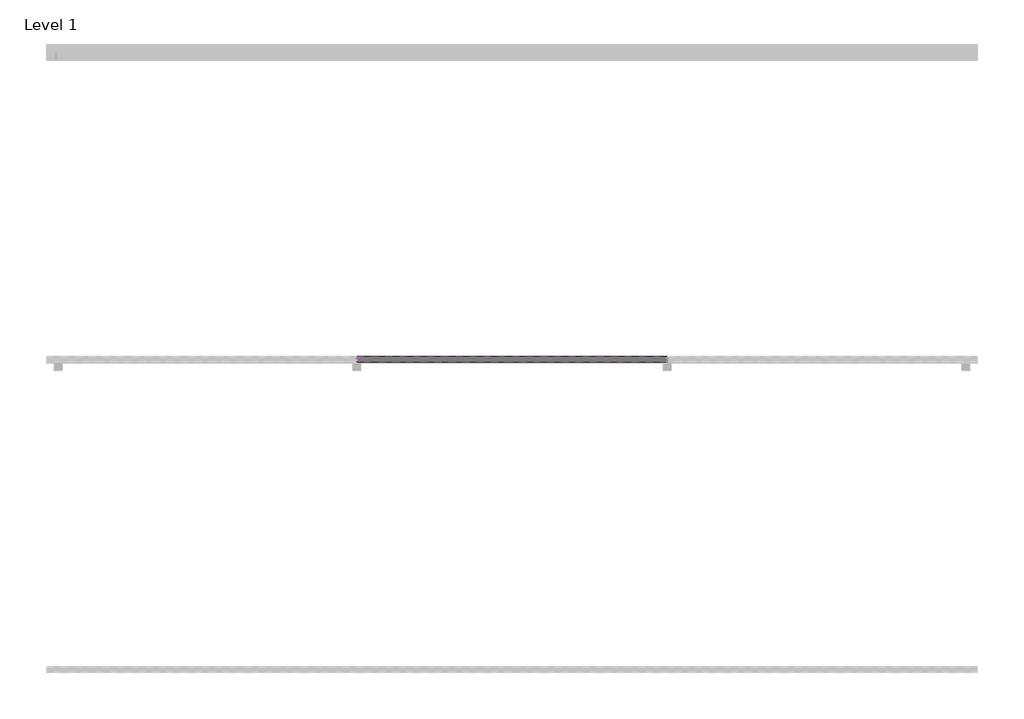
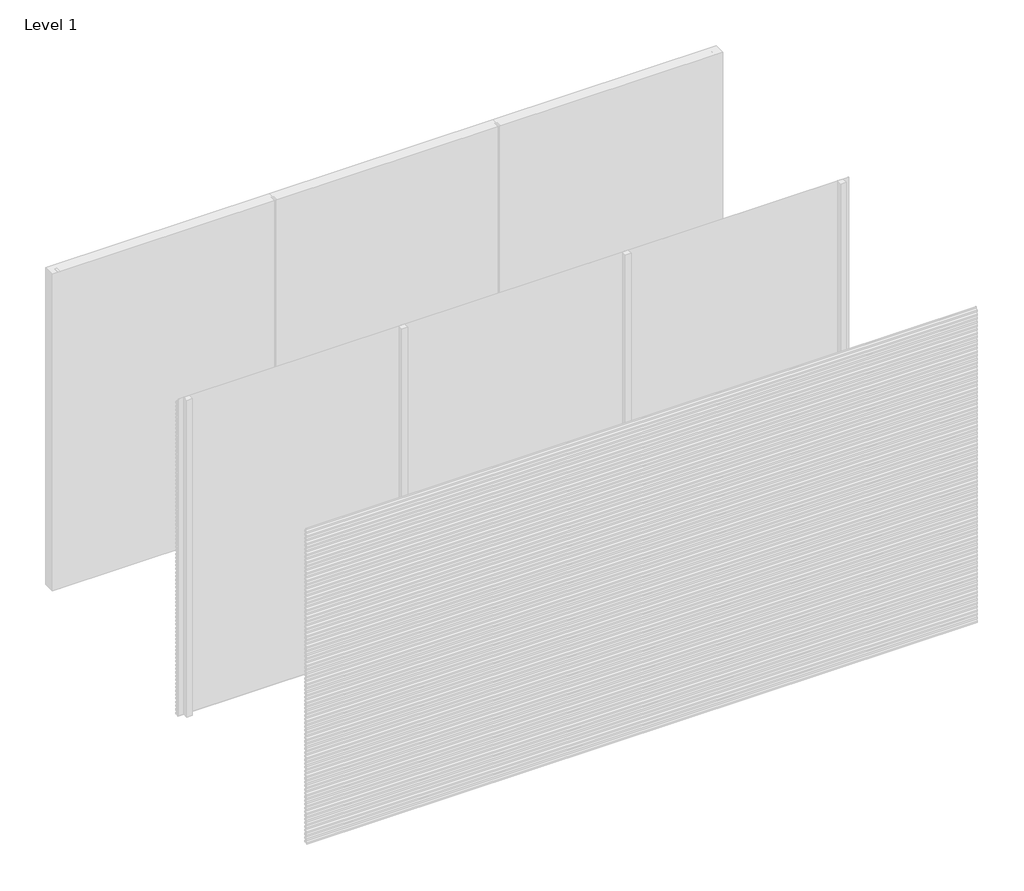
# One storey, part 8 of 17: 81 proxies.
"""IFC4 building model written with IfcOpenShell, lengths in millimetres."""

from ifc_helpers import new_model, si_unit, frame, origin, place, context, project, spatial, polyline, outline, extrude, element, save

model = new_model("IFC4")

# Units and contexts
model_context = context("Model", 3, world=origin())
ifc_project = project(units=[si_unit("LENGTHUNIT", "METRE", prefix="MILLI")], contexts=[model_context])

# Site, building, storey
site = spatial("IfcSite", under=ifc_project)
building = spatial("IfcBuilding", under=site)
storey = spatial("IfcBuildingStorey", under=building, Name="Level 1", Elevation=0.0)

# Proxies
placement = place(None, origin())
element("IfcBuildingElementProxy", 1, Name="Wall Sweeps", at=placement, inside=storey, context=model_context, shape_type="SweptSolid", body=[
    extrude(outline(polyline([(-11961.0, 2286.5), (-11961.0, 2271.5), (-11979.0, 2283.6411533), (-11997.0, 2271.5), (-11997.0, 2286.5), (-11980.0, 2297.9666448), (-11980.0, 2310.0), (-11978.0, 2310.0), (-11978.0, 2297.9666448), (-11961.0, 2286.5)])), frame((2000.0, 0.0, 0.0), z_axis=(1.0, 0.0, 0.0), x_axis=(0.0, 1.0, 0.0)), (0.0, 0.0, 1.0), 2000.0),
])
element("IfcBuildingElementProxy", 2, Name="Wall Sweeps", at=placement, inside=storey, context=model_context, shape_type="SweptSolid", body=[
    extrude(outline(polyline([(-11961.0, 2251.5), (-11961.0, 2236.5), (-11979.0, 2248.6411533), (-11997.0, 2236.5), (-11997.0, 2251.5), (-11980.0, 2262.9666448), (-11980.0, 2275.0), (-11978.0, 2275.0), (-11978.0, 2262.9666448), (-11961.0, 2251.5)])), frame((2000.0, 0.0, 0.0), z_axis=(1.0, 0.0, 0.0), x_axis=(0.0, 1.0, 0.0)), (0.0, 0.0, 1.0), 2000.0),
])
element("IfcBuildingElementProxy", 3, Name="Wall Sweeps", at=placement, inside=storey, context=model_context, shape_type="SweptSolid", body=[
    extrude(outline(polyline([(-11961.0, 2216.5), (-11961.0, 2201.5), (-11979.0, 2213.6411533), (-11997.0, 2201.5), (-11997.0, 2216.5), (-11980.0, 2227.9666448), (-11980.0, 2240.0), (-11978.0, 2240.0), (-11978.0, 2227.9666448), (-11961.0, 2216.5)])), frame((2000.0, 0.0, 0.0), z_axis=(1.0, 0.0, 0.0), x_axis=(0.0, 1.0, 0.0)), (0.0, 0.0, 1.0), 2000.0),
])
element("IfcBuildingElementProxy", 4, Name="Wall Sweeps", at=placement, inside=storey, context=model_context, shape_type="SweptSolid", body=[
    extrude(outline(polyline([(-11961.0, 2181.5), (-11961.0, 2166.5), (-11979.0, 2178.6411533), (-11997.0, 2166.5), (-11997.0, 2181.5), (-11980.0, 2192.9666448), (-11980.0, 2205.0), (-11978.0, 2205.0), (-11978.0, 2192.9666448), (-11961.0, 2181.5)])), frame((2000.0, 0.0, 0.0), z_axis=(1.0, 0.0, 0.0), x_axis=(0.0, 1.0, 0.0)), (0.0, 0.0, 1.0), 2000.0),
])
element("IfcBuildingElementProxy", 5, Name="Wall Sweeps", at=placement, inside=storey, context=model_context, shape_type="SweptSolid", body=[
    extrude(outline(polyline([(-11961.0, 2146.5), (-11961.0, 2131.5), (-11979.0, 2143.6411533), (-11997.0, 2131.5), (-11997.0, 2146.5), (-11980.0, 2157.9666448), (-11980.0, 2170.0), (-11978.0, 2170.0), (-11978.0, 2157.9666448), (-11961.0, 2146.5)])), frame((2000.0, 0.0, 0.0), z_axis=(1.0, 0.0, 0.0), x_axis=(0.0, 1.0, 0.0)), (0.0, 0.0, 1.0), 2000.0),
])
element("IfcBuildingElementProxy", 6, Name="Wall Sweeps", at=placement, inside=storey, context=model_context, shape_type="SweptSolid", body=[
    extrude(outline(polyline([(-11961.0, 2111.5), (-11961.0, 2096.5), (-11979.0, 2108.6411533), (-11997.0, 2096.5), (-11997.0, 2111.5), (-11980.0, 2122.9666448), (-11980.0, 2135.0), (-11978.0, 2135.0), (-11978.0, 2122.9666448), (-11961.0, 2111.5)])), frame((2000.0, 0.0, 0.0), z_axis=(1.0, 0.0, 0.0), x_axis=(0.0, 1.0, 0.0)), (0.0, 0.0, 1.0), 2000.0),
])
element("IfcBuildingElementProxy", 7, Name="Wall Sweeps", at=placement, inside=storey, context=model_context, shape_type="SweptSolid", body=[
    extrude(outline(polyline([(-11961.0, 2076.5), (-11961.0, 2061.5), (-11979.0, 2073.6411533), (-11997.0, 2061.5), (-11997.0, 2076.5), (-11980.0, 2087.9666448), (-11980.0, 2100.0), (-11978.0, 2100.0), (-11978.0, 2087.9666448), (-11961.0, 2076.5)])), frame((2000.0, 0.0, 0.0), z_axis=(1.0, 0.0, 0.0), x_axis=(0.0, 1.0, 0.0)), (0.0, 0.0, 1.0), 2000.0),
])
element("IfcBuildingElementProxy", 8, Name="Wall Sweeps", at=placement, inside=storey, context=model_context, shape_type="SweptSolid", body=[
    extrude(outline(polyline([(-11961.0, 2041.5), (-11961.0, 2026.5), (-11979.0, 2038.6411533), (-11997.0, 2026.5), (-11997.0, 2041.5), (-11980.0, 2052.9666448), (-11980.0, 2065.0), (-11978.0, 2065.0), (-11978.0, 2052.9666448), (-11961.0, 2041.5)])), frame((2000.0, 0.0, 0.0), z_axis=(1.0, 0.0, 0.0), x_axis=(0.0, 1.0, 0.0)), (0.0, 0.0, 1.0), 2000.0),
])
element("IfcBuildingElementProxy", 9, Name="Wall Sweeps", at=placement, inside=storey, context=model_context, shape_type="SweptSolid", body=[
    extrude(outline(polyline([(-11961.0, 2006.5), (-11961.0, 1991.5), (-11979.0, 2003.6411533), (-11997.0, 1991.5), (-11997.0, 2006.5), (-11980.0, 2017.9666448), (-11980.0, 2030.0), (-11978.0, 2030.0), (-11978.0, 2017.9666448), (-11961.0, 2006.5)])), frame((2000.0, 0.0, 0.0), z_axis=(1.0, 0.0, 0.0), x_axis=(0.0, 1.0, 0.0)), (0.0, 0.0, 1.0), 2000.0),
])
element("IfcBuildingElementProxy", 10, Name="Wall Sweeps", at=placement, inside=storey, context=model_context, shape_type="SweptSolid", body=[
    extrude(outline(polyline([(-11961.0, 1971.5), (-11961.0, 1956.5), (-11979.0, 1968.6411533), (-11997.0, 1956.5), (-11997.0, 1971.5), (-11980.0, 1982.9666448), (-11980.0, 1995.0), (-11978.0, 1995.0), (-11978.0, 1982.9666448), (-11961.0, 1971.5)])), frame((2000.0, 0.0, 0.0), z_axis=(1.0, 0.0, 0.0), x_axis=(0.0, 1.0, 0.0)), (0.0, 0.0, 1.0), 2000.0),
])
element("IfcBuildingElementProxy", 11, Name="Wall Sweeps", at=placement, inside=storey, context=model_context, shape_type="SweptSolid", body=[
    extrude(outline(polyline([(-11961.0, 1936.5), (-11961.0, 1921.5), (-11979.0, 1933.6411533), (-11997.0, 1921.5), (-11997.0, 1936.5), (-11980.0, 1947.9666448), (-11980.0, 1960.0), (-11978.0, 1960.0), (-11978.0, 1947.9666448), (-11961.0, 1936.5)])), frame((2000.0, 0.0, 0.0), z_axis=(1.0, 0.0, 0.0), x_axis=(0.0, 1.0, 0.0)), (0.0, 0.0, 1.0), 2000.0),
])
element("IfcBuildingElementProxy", 12, Name="Wall Sweeps", at=placement, inside=storey, context=model_context, shape_type="SweptSolid", body=[
    extrude(outline(polyline([(-11961.0, 1901.5), (-11961.0, 1886.5), (-11979.0, 1898.6411533), (-11997.0, 1886.5), (-11997.0, 1901.5), (-11980.0, 1912.9666448), (-11980.0, 1925.0), (-11978.0, 1925.0), (-11978.0, 1912.9666448), (-11961.0, 1901.5)])), frame((2000.0, 0.0, 0.0), z_axis=(1.0, 0.0, 0.0), x_axis=(0.0, 1.0, 0.0)), (0.0, 0.0, 1.0), 2000.0),
])
element("IfcBuildingElementProxy", 13, Name="Wall Sweeps", at=placement, inside=storey, context=model_context, shape_type="SweptSolid", body=[
    extrude(outline(polyline([(-11961.0, 1866.5), (-11961.0, 1851.5), (-11979.0, 1863.6411533), (-11997.0, 1851.5), (-11997.0, 1866.5), (-11980.0, 1877.9666448), (-11980.0, 1890.0), (-11978.0, 1890.0), (-11978.0, 1877.9666448), (-11961.0, 1866.5)])), frame((2000.0, 0.0, 0.0), z_axis=(1.0, 0.0, 0.0), x_axis=(0.0, 1.0, 0.0)), (0.0, 0.0, 1.0), 2000.0),
])
element("IfcBuildingElementProxy", 14, Name="Wall Sweeps", at=placement, inside=storey, context=model_context, shape_type="SweptSolid", body=[
    extrude(outline(polyline([(-11961.0, 1831.5), (-11961.0, 1816.5), (-11979.0, 1828.6411533), (-11997.0, 1816.5), (-11997.0, 1831.5), (-11980.0, 1842.9666448), (-11980.0, 1855.0), (-11978.0, 1855.0), (-11978.0, 1842.9666448), (-11961.0, 1831.5)])), frame((2000.0, 0.0, 0.0), z_axis=(1.0, 0.0, 0.0), x_axis=(0.0, 1.0, 0.0)), (0.0, 0.0, 1.0), 2000.0),
])
element("IfcBuildingElementProxy", 15, Name="Wall Sweeps", at=placement, inside=storey, context=model_context, shape_type="SweptSolid", body=[
    extrude(outline(polyline([(-11961.0, 1796.5), (-11961.0, 1781.5), (-11979.0, 1793.6411533), (-11997.0, 1781.5), (-11997.0, 1796.5), (-11980.0, 1807.9666448), (-11980.0, 1820.0), (-11978.0, 1820.0), (-11978.0, 1807.9666448), (-11961.0, 1796.5)])), frame((2000.0, 0.0, 0.0), z_axis=(1.0, 0.0, 0.0), x_axis=(0.0, 1.0, 0.0)), (0.0, 0.0, 1.0), 2000.0),
])
element("IfcBuildingElementProxy", 16, Name="Wall Sweeps", at=placement, inside=storey, context=model_context, shape_type="SweptSolid", body=[
    extrude(outline(polyline([(-11961.0, 1761.5), (-11961.0, 1746.5), (-11979.0, 1758.6411533), (-11997.0, 1746.5), (-11997.0, 1761.5), (-11980.0, 1772.9666448), (-11980.0, 1785.0), (-11978.0, 1785.0), (-11978.0, 1772.9666448), (-11961.0, 1761.5)])), frame((2000.0, 0.0, 0.0), z_axis=(1.0, 0.0, 0.0), x_axis=(0.0, 1.0, 0.0)), (0.0, 0.0, 1.0), 2000.0),
])
element("IfcBuildingElementProxy", 17, Name="Wall Sweeps", at=placement, inside=storey, context=model_context, shape_type="SweptSolid", body=[
    extrude(outline(polyline([(-11961.0, 1726.5), (-11961.0, 1711.5), (-11979.0, 1723.6411533), (-11997.0, 1711.5), (-11997.0, 1726.5), (-11980.0, 1737.9666448), (-11980.0, 1750.0), (-11978.0, 1750.0), (-11978.0, 1737.9666448), (-11961.0, 1726.5)])), frame((2000.0, 0.0, 0.0), z_axis=(1.0, 0.0, 0.0), x_axis=(0.0, 1.0, 0.0)), (0.0, 0.0, 1.0), 2000.0),
])
element("IfcBuildingElementProxy", 18, Name="Wall Sweeps", at=placement, inside=storey, context=model_context, shape_type="SweptSolid", body=[
    extrude(outline(polyline([(-11961.0, 1691.5), (-11961.0, 1676.5), (-11979.0, 1688.6411533), (-11997.0, 1676.5), (-11997.0, 1691.5), (-11980.0, 1702.9666448), (-11980.0, 1715.0), (-11978.0, 1715.0), (-11978.0, 1702.9666448), (-11961.0, 1691.5)])), frame((2000.0, 0.0, 0.0), z_axis=(1.0, 0.0, 0.0), x_axis=(0.0, 1.0, 0.0)), (0.0, 0.0, 1.0), 2000.0),
])
element("IfcBuildingElementProxy", 19, Name="Wall Sweeps", at=placement, inside=storey, context=model_context, shape_type="SweptSolid", body=[
    extrude(outline(polyline([(-11961.0, 1656.5), (-11961.0, 1641.5), (-11979.0, 1653.6411533), (-11997.0, 1641.5), (-11997.0, 1656.5), (-11980.0, 1667.9666448), (-11980.0, 1680.0), (-11978.0, 1680.0), (-11978.0, 1667.9666448), (-11961.0, 1656.5)])), frame((2000.0, 0.0, 0.0), z_axis=(1.0, 0.0, 0.0), x_axis=(0.0, 1.0, 0.0)), (0.0, 0.0, 1.0), 2000.0),
])
element("IfcBuildingElementProxy", 20, Name="Wall Sweeps", at=placement, inside=storey, context=model_context, shape_type="SweptSolid", body=[
    extrude(outline(polyline([(-11961.0, 1621.5), (-11961.0, 1606.5), (-11979.0, 1618.6411533), (-11997.0, 1606.5), (-11997.0, 1621.5), (-11980.0, 1632.9666448), (-11980.0, 1645.0), (-11978.0, 1645.0), (-11978.0, 1632.9666448), (-11961.0, 1621.5)])), frame((2000.0, 0.0, 0.0), z_axis=(1.0, 0.0, 0.0), x_axis=(0.0, 1.0, 0.0)), (0.0, 0.0, 1.0), 2000.0),
])
element("IfcBuildingElementProxy", 21, Name="Wall Sweeps", at=placement, inside=storey, context=model_context, shape_type="SweptSolid", body=[
    extrude(outline(polyline([(-11961.0, 1586.5), (-11961.0, 1571.5), (-11979.0, 1583.6411533), (-11997.0, 1571.5), (-11997.0, 1586.5), (-11980.0, 1597.9666448), (-11980.0, 1610.0), (-11978.0, 1610.0), (-11978.0, 1597.9666448), (-11961.0, 1586.5)])), frame((2000.0, 0.0, 0.0), z_axis=(1.0, 0.0, 0.0), x_axis=(0.0, 1.0, 0.0)), (0.0, 0.0, 1.0), 2000.0),
])
element("IfcBuildingElementProxy", 22, Name="Wall Sweeps", at=placement, inside=storey, context=model_context, shape_type="SweptSolid", body=[
    extrude(outline(polyline([(-11961.0, 1551.5), (-11961.0, 1536.5), (-11979.0, 1548.6411533), (-11997.0, 1536.5), (-11997.0, 1551.5), (-11980.0, 1562.9666448), (-11980.0, 1575.0), (-11978.0, 1575.0), (-11978.0, 1562.9666448), (-11961.0, 1551.5)])), frame((2000.0, 0.0, 0.0), z_axis=(1.0, 0.0, 0.0), x_axis=(0.0, 1.0, 0.0)), (0.0, 0.0, 1.0), 2000.0),
])
element("IfcBuildingElementProxy", 23, Name="Wall Sweeps", at=placement, inside=storey, context=model_context, shape_type="SweptSolid", body=[
    extrude(outline(polyline([(-11961.0, 1516.5), (-11961.0, 1501.5), (-11979.0, 1513.6411533), (-11997.0, 1501.5), (-11997.0, 1516.5), (-11980.0, 1527.9666448), (-11980.0, 1540.0), (-11978.0, 1540.0), (-11978.0, 1527.9666448), (-11961.0, 1516.5)])), frame((2000.0, 0.0, 0.0), z_axis=(1.0, 0.0, 0.0), x_axis=(0.0, 1.0, 0.0)), (0.0, 0.0, 1.0), 2000.0),
])
element("IfcBuildingElementProxy", 24, Name="Wall Sweeps", at=placement, inside=storey, context=model_context, shape_type="SweptSolid", body=[
    extrude(outline(polyline([(-11961.0, 1481.5), (-11961.0, 1466.5), (-11979.0, 1478.6411533), (-11997.0, 1466.5), (-11997.0, 1481.5), (-11980.0, 1492.9666448), (-11980.0, 1505.0), (-11978.0, 1505.0), (-11978.0, 1492.9666448), (-11961.0, 1481.5)])), frame((2000.0, 0.0, 0.0), z_axis=(1.0, 0.0, 0.0), x_axis=(0.0, 1.0, 0.0)), (0.0, 0.0, 1.0), 2000.0),
])
element("IfcBuildingElementProxy", 25, Name="Wall Sweeps", at=placement, inside=storey, context=model_context, shape_type="SweptSolid", body=[
    extrude(outline(polyline([(-11961.0, 1446.5), (-11961.0, 1431.5), (-11979.0, 1443.6411533), (-11997.0, 1431.5), (-11997.0, 1446.5), (-11980.0, 1457.9666448), (-11980.0, 1470.0), (-11978.0, 1470.0), (-11978.0, 1457.9666448), (-11961.0, 1446.5)])), frame((2000.0, 0.0, 0.0), z_axis=(1.0, 0.0, 0.0), x_axis=(0.0, 1.0, 0.0)), (0.0, 0.0, 1.0), 2000.0),
])
element("IfcBuildingElementProxy", 26, Name="Wall Sweeps", at=placement, inside=storey, context=model_context, shape_type="SweptSolid", body=[
    extrude(outline(polyline([(-11961.0, 1411.5), (-11961.0, 1396.5), (-11979.0, 1408.6411533), (-11997.0, 1396.5), (-11997.0, 1411.5), (-11980.0, 1422.9666448), (-11980.0, 1435.0), (-11978.0, 1435.0), (-11978.0, 1422.9666448), (-11961.0, 1411.5)])), frame((2000.0, 0.0, 0.0), z_axis=(1.0, 0.0, 0.0), x_axis=(0.0, 1.0, 0.0)), (0.0, 0.0, 1.0), 2000.0),
])
element("IfcBuildingElementProxy", 27, Name="Wall Sweeps", at=placement, inside=storey, context=model_context, shape_type="SweptSolid", body=[
    extrude(outline(polyline([(-11961.0, 1376.5), (-11961.0, 1361.5), (-11979.0, 1373.6411533), (-11997.0, 1361.5), (-11997.0, 1376.5), (-11980.0, 1387.9666448), (-11980.0, 1400.0), (-11978.0, 1400.0), (-11978.0, 1387.9666448), (-11961.0, 1376.5)])), frame((2000.0, 0.0, 0.0), z_axis=(1.0, 0.0, 0.0), x_axis=(0.0, 1.0, 0.0)), (0.0, 0.0, 1.0), 2000.0),
])
element("IfcBuildingElementProxy", 28, Name="Wall Sweeps", at=placement, inside=storey, context=model_context, shape_type="SweptSolid", body=[
    extrude(outline(polyline([(-11961.0, 1341.5), (-11961.0, 1326.5), (-11979.0, 1338.6411533), (-11997.0, 1326.5), (-11997.0, 1341.5), (-11980.0, 1352.9666448), (-11980.0, 1365.0), (-11978.0, 1365.0), (-11978.0, 1352.9666448), (-11961.0, 1341.5)])), frame((2000.0, 0.0, 0.0), z_axis=(1.0, 0.0, 0.0), x_axis=(0.0, 1.0, 0.0)), (0.0, 0.0, 1.0), 2000.0),
])
element("IfcBuildingElementProxy", 29, Name="Wall Sweeps", at=placement, inside=storey, context=model_context, shape_type="SweptSolid", body=[
    extrude(outline(polyline([(-11961.0, 1306.5), (-11961.0, 1291.5), (-11979.0, 1303.6411533), (-11997.0, 1291.5), (-11997.0, 1306.5), (-11980.0, 1317.9666448), (-11980.0, 1330.0), (-11978.0, 1330.0), (-11978.0, 1317.9666448), (-11961.0, 1306.5)])), frame((2000.0, 0.0, 0.0), z_axis=(1.0, 0.0, 0.0), x_axis=(0.0, 1.0, 0.0)), (0.0, 0.0, 1.0), 2000.0),
])
element("IfcBuildingElementProxy", 30, Name="Wall Sweeps", at=placement, inside=storey, context=model_context, shape_type="SweptSolid", body=[
    extrude(outline(polyline([(-11961.0, 1271.5), (-11961.0, 1256.5), (-11979.0, 1268.6411533), (-11997.0, 1256.5), (-11997.0, 1271.5), (-11980.0, 1282.9666448), (-11980.0, 1295.0), (-11978.0, 1295.0), (-11978.0, 1282.9666448), (-11961.0, 1271.5)])), frame((2000.0, 0.0, 0.0), z_axis=(1.0, 0.0, 0.0), x_axis=(0.0, 1.0, 0.0)), (0.0, 0.0, 1.0), 2000.0),
])
element("IfcBuildingElementProxy", 31, Name="Wall Sweeps", at=placement, inside=storey, context=model_context, shape_type="SweptSolid", body=[
    extrude(outline(polyline([(-11961.0, 1236.5), (-11961.0, 1221.5), (-11979.0, 1233.6411533), (-11997.0, 1221.5), (-11997.0, 1236.5), (-11980.0, 1247.9666448), (-11980.0, 1260.0), (-11978.0, 1260.0), (-11978.0, 1247.9666448), (-11961.0, 1236.5)])), frame((2000.0, 0.0, 0.0), z_axis=(1.0, 0.0, 0.0), x_axis=(0.0, 1.0, 0.0)), (0.0, 0.0, 1.0), 2000.0),
])
element("IfcBuildingElementProxy", 32, Name="Wall Sweeps", at=placement, inside=storey, context=model_context, shape_type="SweptSolid", body=[
    extrude(outline(polyline([(-11961.0, 1201.5), (-11961.0, 1186.5), (-11979.0, 1198.6411533), (-11997.0, 1186.5), (-11997.0, 1201.5), (-11980.0, 1212.9666448), (-11980.0, 1225.0), (-11978.0, 1225.0), (-11978.0, 1212.9666448), (-11961.0, 1201.5)])), frame((2000.0, 0.0, 0.0), z_axis=(1.0, 0.0, 0.0), x_axis=(0.0, 1.0, 0.0)), (0.0, 0.0, 1.0), 2000.0),
])
element("IfcBuildingElementProxy", 33, Name="Wall Sweeps", at=placement, inside=storey, context=model_context, shape_type="SweptSolid", body=[
    extrude(outline(polyline([(-11961.0, 1166.5), (-11961.0, 1151.5), (-11979.0, 1163.6411533), (-11997.0, 1151.5), (-11997.0, 1166.5), (-11980.0, 1177.9666448), (-11980.0, 1190.0), (-11978.0, 1190.0), (-11978.0, 1177.9666448), (-11961.0, 1166.5)])), frame((2000.0, 0.0, 0.0), z_axis=(1.0, 0.0, 0.0), x_axis=(0.0, 1.0, 0.0)), (0.0, 0.0, 1.0), 2000.0),
])
element("IfcBuildingElementProxy", 34, Name="Wall Sweeps", at=placement, inside=storey, context=model_context, shape_type="SweptSolid", body=[
    extrude(outline(polyline([(-11961.0, 1131.5), (-11961.0, 1116.5), (-11979.0, 1128.6411533), (-11997.0, 1116.5), (-11997.0, 1131.5), (-11980.0, 1142.9666448), (-11980.0, 1155.0), (-11978.0, 1155.0), (-11978.0, 1142.9666448), (-11961.0, 1131.5)])), frame((2000.0, 0.0, 0.0), z_axis=(1.0, 0.0, 0.0), x_axis=(0.0, 1.0, 0.0)), (0.0, 0.0, 1.0), 2000.0),
])
element("IfcBuildingElementProxy", 35, Name="Wall Sweeps", at=placement, inside=storey, context=model_context, shape_type="SweptSolid", body=[
    extrude(outline(polyline([(-11961.0, 1096.5), (-11961.0, 1081.5), (-11979.0, 1093.6411533), (-11997.0, 1081.5), (-11997.0, 1096.5), (-11980.0, 1107.9666448), (-11980.0, 1120.0), (-11978.0, 1120.0), (-11978.0, 1107.9666448), (-11961.0, 1096.5)])), frame((2000.0, 0.0, 0.0), z_axis=(1.0, 0.0, 0.0), x_axis=(0.0, 1.0, 0.0)), (0.0, 0.0, 1.0), 2000.0),
])
element("IfcBuildingElementProxy", 36, Name="Wall Sweeps", at=placement, inside=storey, context=model_context, shape_type="SweptSolid", body=[
    extrude(outline(polyline([(-11961.0, 1061.5), (-11961.0, 1046.5), (-11979.0, 1058.6411533), (-11997.0, 1046.5), (-11997.0, 1061.5), (-11980.0, 1072.9666448), (-11980.0, 1085.0), (-11978.0, 1085.0), (-11978.0, 1072.9666448), (-11961.0, 1061.5)])), frame((2000.0, 0.0, 0.0), z_axis=(1.0, 0.0, 0.0), x_axis=(0.0, 1.0, 0.0)), (0.0, 0.0, 1.0), 2000.0),
])
element("IfcBuildingElementProxy", 37, Name="Wall Sweeps", at=placement, inside=storey, context=model_context, shape_type="SweptSolid", body=[
    extrude(outline(polyline([(-11961.0, 1026.5), (-11961.0, 1011.5), (-11979.0, 1023.6411533), (-11997.0, 1011.5), (-11997.0, 1026.5), (-11980.0, 1037.9666448), (-11980.0, 1050.0), (-11978.0, 1050.0), (-11978.0, 1037.9666448), (-11961.0, 1026.5)])), frame((2000.0, 0.0, 0.0), z_axis=(1.0, 0.0, 0.0), x_axis=(0.0, 1.0, 0.0)), (0.0, 0.0, 1.0), 2000.0),
])
element("IfcBuildingElementProxy", 38, Name="Wall Sweeps", at=placement, inside=storey, context=model_context, shape_type="SweptSolid", body=[
    extrude(outline(polyline([(-11961.0, 991.5), (-11961.0, 976.5), (-11979.0, 988.6411533), (-11997.0, 976.5), (-11997.0, 991.5), (-11980.0, 1002.9666448), (-11980.0, 1015.0), (-11978.0, 1015.0), (-11978.0, 1002.9666448), (-11961.0, 991.5)])), frame((2000.0, 0.0, 0.0), z_axis=(1.0, 0.0, 0.0), x_axis=(0.0, 1.0, 0.0)), (0.0, 0.0, 1.0), 2000.0),
])
element("IfcBuildingElementProxy", 39, Name="Wall Sweeps", at=placement, inside=storey, context=model_context, shape_type="SweptSolid", body=[
    extrude(outline(polyline([(-11961.0, 956.5), (-11961.0, 941.5), (-11979.0, 953.6411533), (-11997.0, 941.5), (-11997.0, 956.5), (-11980.0, 967.9666448), (-11980.0, 980.0), (-11978.0, 980.0), (-11978.0, 967.9666448), (-11961.0, 956.5)])), frame((2000.0, 0.0, 0.0), z_axis=(1.0, 0.0, 0.0), x_axis=(0.0, 1.0, 0.0)), (0.0, 0.0, 1.0), 2000.0),
])
element("IfcBuildingElementProxy", 40, Name="Wall Sweeps", at=placement, inside=storey, context=model_context, shape_type="SweptSolid", body=[
    extrude(outline(polyline([(-11961.0, 921.5), (-11961.0, 906.5), (-11979.0, 918.6411533), (-11997.0, 906.5), (-11997.0, 921.5), (-11980.0, 932.9666448), (-11980.0, 945.0), (-11978.0, 945.0), (-11978.0, 932.9666448), (-11961.0, 921.5)])), frame((2000.0, 0.0, 0.0), z_axis=(1.0, 0.0, 0.0), x_axis=(0.0, 1.0, 0.0)), (0.0, 0.0, 1.0), 2000.0),
])
element("IfcBuildingElementProxy", 41, Name="Wall Sweeps", at=placement, inside=storey, context=model_context, shape_type="SweptSolid", body=[
    extrude(outline(polyline([(-11961.0, 886.5), (-11961.0, 871.5), (-11979.0, 883.6411533), (-11997.0, 871.5), (-11997.0, 886.5), (-11980.0, 897.9666448), (-11980.0, 910.0), (-11978.0, 910.0), (-11978.0, 897.9666448), (-11961.0, 886.5)])), frame((2000.0, 0.0, 0.0), z_axis=(1.0, 0.0, 0.0), x_axis=(0.0, 1.0, 0.0)), (0.0, 0.0, 1.0), 2000.0),
])
element("IfcBuildingElementProxy", 42, Name="Wall Sweeps", at=placement, inside=storey, context=model_context, shape_type="SweptSolid", body=[
    extrude(outline(polyline([(-11961.0, 851.5), (-11961.0, 836.5), (-11979.0, 848.6411533), (-11997.0, 836.5), (-11997.0, 851.5), (-11980.0, 862.9666448), (-11980.0, 875.0), (-11978.0, 875.0), (-11978.0, 862.9666448), (-11961.0, 851.5)])), frame((2000.0, 0.0, 0.0), z_axis=(1.0, 0.0, 0.0), x_axis=(0.0, 1.0, 0.0)), (0.0, 0.0, 1.0), 2000.0),
])
element("IfcBuildingElementProxy", 43, Name="Wall Sweeps", at=placement, inside=storey, context=model_context, shape_type="SweptSolid", body=[
    extrude(outline(polyline([(-11961.0, 816.5), (-11961.0, 801.5), (-11979.0, 813.6411533), (-11997.0, 801.5), (-11997.0, 816.5), (-11980.0, 827.9666448), (-11980.0, 840.0), (-11978.0, 840.0), (-11978.0, 827.9666448), (-11961.0, 816.5)])), frame((2000.0, 0.0, 0.0), z_axis=(1.0, 0.0, 0.0), x_axis=(0.0, 1.0, 0.0)), (0.0, 0.0, 1.0), 2000.0),
])
element("IfcBuildingElementProxy", 44, Name="Wall Sweeps", at=placement, inside=storey, context=model_context, shape_type="SweptSolid", body=[
    extrude(outline(polyline([(-11961.0, 781.5), (-11961.0, 766.5), (-11979.0, 778.6411533), (-11997.0, 766.5), (-11997.0, 781.5), (-11980.0, 792.9666448), (-11980.0, 805.0), (-11978.0, 805.0), (-11978.0, 792.9666448), (-11961.0, 781.5)])), frame((2000.0, 0.0, 0.0), z_axis=(1.0, 0.0, 0.0), x_axis=(0.0, 1.0, 0.0)), (0.0, 0.0, 1.0), 2000.0),
])
element("IfcBuildingElementProxy", 45, Name="Wall Sweeps", at=placement, inside=storey, context=model_context, shape_type="SweptSolid", body=[
    extrude(outline(polyline([(-11961.0, 746.5), (-11961.0, 731.5), (-11979.0, 743.6411533), (-11997.0, 731.5), (-11997.0, 746.5), (-11980.0, 757.9666448), (-11980.0, 770.0), (-11978.0, 770.0), (-11978.0, 757.9666448), (-11961.0, 746.5)])), frame((2000.0, 0.0, 0.0), z_axis=(1.0, 0.0, 0.0), x_axis=(0.0, 1.0, 0.0)), (0.0, 0.0, 1.0), 2000.0),
])
element("IfcBuildingElementProxy", 46, Name="Wall Sweeps", at=placement, inside=storey, context=model_context, shape_type="SweptSolid", body=[
    extrude(outline(polyline([(-11961.0, 711.5), (-11961.0, 696.5), (-11979.0, 708.6411533), (-11997.0, 696.5), (-11997.0, 711.5), (-11980.0, 722.9666448), (-11980.0, 735.0), (-11978.0, 735.0), (-11978.0, 722.9666448), (-11961.0, 711.5)])), frame((2000.0, 0.0, 0.0), z_axis=(1.0, 0.0, 0.0), x_axis=(0.0, 1.0, 0.0)), (0.0, 0.0, 1.0), 2000.0),
])
element("IfcBuildingElementProxy", 47, Name="Wall Sweeps", at=placement, inside=storey, context=model_context, shape_type="SweptSolid", body=[
    extrude(outline(polyline([(-11961.0, 676.5), (-11961.0, 661.5), (-11979.0, 673.6411533), (-11997.0, 661.5), (-11997.0, 676.5), (-11980.0, 687.9666448), (-11980.0, 700.0), (-11978.0, 700.0), (-11978.0, 687.9666448), (-11961.0, 676.5)])), frame((2000.0, 0.0, 0.0), z_axis=(1.0, 0.0, 0.0), x_axis=(0.0, 1.0, 0.0)), (0.0, 0.0, 1.0), 2000.0),
])
element("IfcBuildingElementProxy", 48, Name="Wall Sweeps", at=placement, inside=storey, context=model_context, shape_type="SweptSolid", body=[
    extrude(outline(polyline([(-11961.0, 641.5), (-11961.0, 626.5), (-11979.0, 638.6411533), (-11997.0, 626.5), (-11997.0, 641.5), (-11980.0, 652.9666448), (-11980.0, 665.0), (-11978.0, 665.0), (-11978.0, 652.9666448), (-11961.0, 641.5)])), frame((2000.0, 0.0, 0.0), z_axis=(1.0, 0.0, 0.0), x_axis=(0.0, 1.0, 0.0)), (0.0, 0.0, 1.0), 2000.0),
])
element("IfcBuildingElementProxy", 49, Name="Wall Sweeps", at=placement, inside=storey, context=model_context, shape_type="SweptSolid", body=[
    extrude(outline(polyline([(-11961.0, 606.5), (-11961.0, 591.5), (-11979.0, 603.6411533), (-11997.0, 591.5), (-11997.0, 606.5), (-11980.0, 617.9666448), (-11980.0, 630.0), (-11978.0, 630.0), (-11978.0, 617.9666448), (-11961.0, 606.5)])), frame((2000.0, 0.0, 0.0), z_axis=(1.0, 0.0, 0.0), x_axis=(0.0, 1.0, 0.0)), (0.0, 0.0, 1.0), 2000.0),
])
element("IfcBuildingElementProxy", 50, Name="Wall Sweeps", at=placement, inside=storey, context=model_context, shape_type="SweptSolid", body=[
    extrude(outline(polyline([(-11961.0, 571.5), (-11961.0, 556.5), (-11979.0, 568.6411533), (-11997.0, 556.5), (-11997.0, 571.5), (-11980.0, 582.9666448), (-11980.0, 595.0), (-11978.0, 595.0), (-11978.0, 582.9666448), (-11961.0, 571.5)])), frame((2000.0, 0.0, 0.0), z_axis=(1.0, 0.0, 0.0), x_axis=(0.0, 1.0, 0.0)), (0.0, 0.0, 1.0), 2000.0),
])
element("IfcBuildingElementProxy", 51, Name="Wall Sweeps", at=placement, inside=storey, context=model_context, shape_type="SweptSolid", body=[
    extrude(outline(polyline([(-11961.0, 536.5), (-11961.0, 521.5), (-11979.0, 533.6411533), (-11997.0, 521.5), (-11997.0, 536.5), (-11980.0, 547.9666448), (-11980.0, 560.0), (-11978.0, 560.0), (-11978.0, 547.9666448), (-11961.0, 536.5)])), frame((2000.0, 0.0, 0.0), z_axis=(1.0, 0.0, 0.0), x_axis=(0.0, 1.0, 0.0)), (0.0, 0.0, 1.0), 2000.0),
])
element("IfcBuildingElementProxy", 52, Name="Wall Sweeps", at=placement, inside=storey, context=model_context, shape_type="SweptSolid", body=[
    extrude(outline(polyline([(-11961.0, 501.5), (-11961.0, 486.5), (-11979.0, 498.6411533), (-11997.0, 486.5), (-11997.0, 501.5), (-11980.0, 512.9666448), (-11980.0, 525.0), (-11978.0, 525.0), (-11978.0, 512.9666448), (-11961.0, 501.5)])), frame((2000.0, 0.0, 0.0), z_axis=(1.0, 0.0, 0.0), x_axis=(0.0, 1.0, 0.0)), (0.0, 0.0, 1.0), 2000.0),
])
element("IfcBuildingElementProxy", 53, Name="Wall Sweeps", at=placement, inside=storey, context=model_context, shape_type="SweptSolid", body=[
    extrude(outline(polyline([(-11961.0, 466.5), (-11961.0, 451.5), (-11979.0, 463.6411533), (-11997.0, 451.5), (-11997.0, 466.5), (-11980.0, 477.9666448), (-11980.0, 490.0), (-11978.0, 490.0), (-11978.0, 477.9666448), (-11961.0, 466.5)])), frame((2000.0, 0.0, 0.0), z_axis=(1.0, 0.0, 0.0), x_axis=(0.0, 1.0, 0.0)), (0.0, 0.0, 1.0), 2000.0),
])
element("IfcBuildingElementProxy", 54, Name="Wall Sweeps", at=placement, inside=storey, context=model_context, shape_type="SweptSolid", body=[
    extrude(outline(polyline([(-11961.0, 431.5), (-11961.0, 416.5), (-11979.0, 428.6411533), (-11997.0, 416.5), (-11997.0, 431.5), (-11980.0, 442.9666448), (-11980.0, 455.0), (-11978.0, 455.0), (-11978.0, 442.9666448), (-11961.0, 431.5)])), frame((2000.0, 0.0, 0.0), z_axis=(1.0, 0.0, 0.0), x_axis=(0.0, 1.0, 0.0)), (0.0, 0.0, 1.0), 2000.0),
])
element("IfcBuildingElementProxy", 55, Name="Wall Sweeps", at=placement, inside=storey, context=model_context, shape_type="SweptSolid", body=[
    extrude(outline(polyline([(-11961.0, 396.5), (-11961.0, 381.5), (-11979.0, 393.6411533), (-11997.0, 381.5), (-11997.0, 396.5), (-11980.0, 407.9666448), (-11980.0, 420.0), (-11978.0, 420.0), (-11978.0, 407.9666448), (-11961.0, 396.5)])), frame((2000.0, 0.0, 0.0), z_axis=(1.0, 0.0, 0.0), x_axis=(0.0, 1.0, 0.0)), (0.0, 0.0, 1.0), 2000.0),
])
element("IfcBuildingElementProxy", 56, Name="Wall Sweeps", at=placement, inside=storey, context=model_context, shape_type="SweptSolid", body=[
    extrude(outline(polyline([(-11961.0, 361.5), (-11961.0, 346.5), (-11979.0, 358.6411533), (-11997.0, 346.5), (-11997.0, 361.5), (-11980.0, 372.9666448), (-11980.0, 385.0), (-11978.0, 385.0), (-11978.0, 372.9666448), (-11961.0, 361.5)])), frame((2000.0, 0.0, 0.0), z_axis=(1.0, 0.0, 0.0), x_axis=(0.0, 1.0, 0.0)), (0.0, 0.0, 1.0), 2000.0),
])
element("IfcBuildingElementProxy", 57, Name="Wall Sweeps", at=placement, inside=storey, context=model_context, shape_type="SweptSolid", body=[
    extrude(outline(polyline([(-11961.0, 326.5), (-11961.0, 311.5), (-11979.0, 323.6411533), (-11997.0, 311.5), (-11997.0, 326.5), (-11980.0, 337.9666448), (-11980.0, 350.0), (-11978.0, 350.0), (-11978.0, 337.9666448), (-11961.0, 326.5)])), frame((2000.0, 0.0, 0.0), z_axis=(1.0, 0.0, 0.0), x_axis=(0.0, 1.0, 0.0)), (0.0, 0.0, 1.0), 2000.0),
])
element("IfcBuildingElementProxy", 58, Name="Wall Sweeps", at=placement, inside=storey, context=model_context, shape_type="SweptSolid", body=[
    extrude(outline(polyline([(-11961.0, 291.5), (-11961.0, 276.5), (-11979.0, 288.6411533), (-11997.0, 276.5), (-11997.0, 291.5), (-11980.0, 302.9666448), (-11980.0, 315.0), (-11978.0, 315.0), (-11978.0, 302.9666448), (-11961.0, 291.5)])), frame((2000.0, 0.0, 0.0), z_axis=(1.0, 0.0, 0.0), x_axis=(0.0, 1.0, 0.0)), (0.0, 0.0, 1.0), 2000.0),
])
element("IfcBuildingElementProxy", 59, Name="Wall Sweeps", at=placement, inside=storey, context=model_context, shape_type="SweptSolid", body=[
    extrude(outline(polyline([(-11961.0, 256.5), (-11961.0, 241.5), (-11979.0, 253.6411533), (-11997.0, 241.5), (-11997.0, 256.5), (-11980.0, 267.9666448), (-11980.0, 280.0), (-11978.0, 280.0), (-11978.0, 267.9666448), (-11961.0, 256.5)])), frame((2000.0, 0.0, 0.0), z_axis=(1.0, 0.0, 0.0), x_axis=(0.0, 1.0, 0.0)), (0.0, 0.0, 1.0), 2000.0),
])
element("IfcBuildingElementProxy", 60, Name="Wall Sweeps", at=placement, inside=storey, context=model_context, shape_type="SweptSolid", body=[
    extrude(outline(polyline([(-11961.0, 221.5), (-11961.0, 206.5), (-11979.0, 218.6411533), (-11997.0, 206.5), (-11997.0, 221.5), (-11980.0, 232.9666448), (-11980.0, 245.0), (-11978.0, 245.0), (-11978.0, 232.9666448), (-11961.0, 221.5)])), frame((2000.0, 0.0, 0.0), z_axis=(1.0, 0.0, 0.0), x_axis=(0.0, 1.0, 0.0)), (0.0, 0.0, 1.0), 2000.0),
])
element("IfcBuildingElementProxy", 61, Name="Wall Sweeps", at=placement, inside=storey, context=model_context, shape_type="SweptSolid", body=[
    extrude(outline(polyline([(-11961.0, 186.5), (-11961.0, 171.5), (-11979.0, 183.6411533), (-11997.0, 171.5), (-11997.0, 186.5), (-11980.0, 197.9666448), (-11980.0, 210.0), (-11978.0, 210.0), (-11978.0, 197.9666448), (-11961.0, 186.5)])), frame((2000.0, 0.0, 0.0), z_axis=(1.0, 0.0, 0.0), x_axis=(0.0, 1.0, 0.0)), (0.0, 0.0, 1.0), 2000.0),
])
element("IfcBuildingElementProxy", 62, Name="Wall Sweeps", at=placement, inside=storey, context=model_context, shape_type="SweptSolid", body=[
    extrude(outline(polyline([(-11961.0, 151.5), (-11961.0, 136.5), (-11979.0, 148.6411533), (-11997.0, 136.5), (-11997.0, 151.5), (-11980.0, 162.9666448), (-11980.0, 175.0), (-11978.0, 175.0), (-11978.0, 162.9666448), (-11961.0, 151.5)])), frame((2000.0, 0.0, 0.0), z_axis=(1.0, 0.0, 0.0), x_axis=(0.0, 1.0, 0.0)), (0.0, 0.0, 1.0), 2000.0),
])
element("IfcBuildingElementProxy", 63, Name="Wall Sweeps", at=placement, inside=storey, context=model_context, shape_type="SweptSolid", body=[
    extrude(outline(polyline([(-11961.0, 116.5), (-11961.0, 101.5), (-11979.0, 113.6411533), (-11997.0, 101.5), (-11997.0, 116.5), (-11980.0, 127.9666448), (-11980.0, 140.0), (-11978.0, 140.0), (-11978.0, 127.9666448), (-11961.0, 116.5)])), frame((2000.0, 0.0, 0.0), z_axis=(1.0, 0.0, 0.0), x_axis=(0.0, 1.0, 0.0)), (0.0, 0.0, 1.0), 2000.0),
])
element("IfcBuildingElementProxy", 64, Name="Wall Sweeps", at=placement, inside=storey, context=model_context, shape_type="SweptSolid", body=[
    extrude(outline(polyline([(-11961.0, 81.5), (-11961.0, 66.5), (-11979.0, 78.6411533), (-11997.0, 66.5), (-11997.0, 81.5), (-11980.0, 92.9666448), (-11980.0, 105.0), (-11978.0, 105.0), (-11978.0, 92.9666448), (-11961.0, 81.5)])), frame((2000.0, 0.0, 0.0), z_axis=(1.0, 0.0, 0.0), x_axis=(0.0, 1.0, 0.0)), (0.0, 0.0, 1.0), 2000.0),
])
element("IfcBuildingElementProxy", 65, Name="Wall Sweeps", at=placement, inside=storey, context=model_context, shape_type="SweptSolid", body=[
    extrude(outline(polyline([(-11961.0, 46.5), (-11961.0, 31.5), (-11979.0, 43.6411533), (-11997.0, 31.5), (-11997.0, 46.5), (-11980.0, 57.9666448), (-11980.0, 70.0), (-11978.0, 70.0), (-11978.0, 57.9666448), (-11961.0, 46.5)])), frame((2000.0, 0.0, 0.0), z_axis=(1.0, 0.0, 0.0), x_axis=(0.0, 1.0, 0.0)), (0.0, 0.0, 1.0), 2000.0),
])
element("IfcBuildingElementProxy", 66, Name="Wall Sweeps", at=placement, inside=storey, context=model_context, shape_type="SweptSolid", body=[
    extrude(outline(polyline([(-11961.0, 11.5), (-11961.0, -3.5), (-11979.0, 8.6411533), (-11997.0, -3.5), (-11997.0, 11.5), (-11980.0, 22.9666448), (-11980.0, 35.0), (-11978.0, 35.0), (-11978.0, 22.9666448), (-11961.0, 11.5)])), frame((2000.0, 0.0, 0.0), z_axis=(1.0, 0.0, 0.0), x_axis=(0.0, 1.0, 0.0)), (0.0, 0.0, 1.0), 2000.0),
])
element("IfcBuildingElementProxy", 67, Name="Wall Sweeps", at=placement, inside=storey, context=model_context, shape_type="SweptSolid", body=[
    extrude(outline(polyline([(-11961.0, 2951.5), (-11961.0, 2936.5), (-11979.0, 2948.6411533), (-11997.0, 2936.5), (-11997.0, 2951.5), (-11980.0, 2962.9666448), (-11980.0, 2975.0), (-11978.0, 2975.0), (-11978.0, 2962.9666448), (-11961.0, 2951.5)])), frame((4000.0, 0.0, 0.0), z_axis=(1.0, 0.0, 0.0), x_axis=(0.0, 1.0, 0.0)), (0.0, 0.0, 1.0), 2000.0),
])
element("IfcBuildingElementProxy", 68, Name="Wall Sweeps", at=placement, inside=storey, context=model_context, shape_type="SweptSolid", body=[
    extrude(outline(polyline([(-11961.0, 2916.5), (-11961.0, 2901.5), (-11979.0, 2913.6411533), (-11997.0, 2901.5), (-11997.0, 2916.5), (-11980.0, 2927.9666448), (-11980.0, 2940.0), (-11978.0, 2940.0), (-11978.0, 2927.9666448), (-11961.0, 2916.5)])), frame((4000.0, 0.0, 0.0), z_axis=(1.0, 0.0, 0.0), x_axis=(0.0, 1.0, 0.0)), (0.0, 0.0, 1.0), 2000.0),
])
element("IfcBuildingElementProxy", 69, Name="Wall Sweeps", at=placement, inside=storey, context=model_context, shape_type="SweptSolid", body=[
    extrude(outline(polyline([(-11961.0, 2881.5), (-11961.0, 2866.5), (-11979.0, 2878.6411533), (-11997.0, 2866.5), (-11997.0, 2881.5), (-11980.0, 2892.9666448), (-11980.0, 2905.0), (-11978.0, 2905.0), (-11978.0, 2892.9666448), (-11961.0, 2881.5)])), frame((4000.0, 0.0, 0.0), z_axis=(1.0, 0.0, 0.0), x_axis=(0.0, 1.0, 0.0)), (0.0, 0.0, 1.0), 2000.0),
])
element("IfcBuildingElementProxy", 70, Name="Wall Sweeps", at=placement, inside=storey, context=model_context, shape_type="SweptSolid", body=[
    extrude(outline(polyline([(-11961.0, 2846.5), (-11961.0, 2831.5), (-11979.0, 2843.6411533), (-11997.0, 2831.5), (-11997.0, 2846.5), (-11980.0, 2857.9666448), (-11980.0, 2870.0), (-11978.0, 2870.0), (-11978.0, 2857.9666448), (-11961.0, 2846.5)])), frame((4000.0, 0.0, 0.0), z_axis=(1.0, 0.0, 0.0), x_axis=(0.0, 1.0, 0.0)), (0.0, 0.0, 1.0), 2000.0),
])
element("IfcBuildingElementProxy", 71, Name="Wall Sweeps", at=placement, inside=storey, context=model_context, shape_type="SweptSolid", body=[
    extrude(outline(polyline([(-11961.0, 2811.5), (-11961.0, 2796.5), (-11979.0, 2808.6411533), (-11997.0, 2796.5), (-11997.0, 2811.5), (-11980.0, 2822.9666448), (-11980.0, 2835.0), (-11978.0, 2835.0), (-11978.0, 2822.9666448), (-11961.0, 2811.5)])), frame((4000.0, 0.0, 0.0), z_axis=(1.0, 0.0, 0.0), x_axis=(0.0, 1.0, 0.0)), (0.0, 0.0, 1.0), 2000.0),
])
element("IfcBuildingElementProxy", 72, Name="Wall Sweeps", at=placement, inside=storey, context=model_context, shape_type="SweptSolid", body=[
    extrude(outline(polyline([(-11961.0, 2776.5), (-11961.0, 2761.5), (-11979.0, 2773.6411533), (-11997.0, 2761.5), (-11997.0, 2776.5), (-11980.0, 2787.9666448), (-11980.0, 2800.0), (-11978.0, 2800.0), (-11978.0, 2787.9666448), (-11961.0, 2776.5)])), frame((4000.0, 0.0, 0.0), z_axis=(1.0, 0.0, 0.0), x_axis=(0.0, 1.0, 0.0)), (0.0, 0.0, 1.0), 2000.0),
])
element("IfcBuildingElementProxy", 73, Name="Wall Sweeps", at=placement, inside=storey, context=model_context, shape_type="SweptSolid", body=[
    extrude(outline(polyline([(-11961.0, 2741.5), (-11961.0, 2726.5), (-11979.0, 2738.6411533), (-11997.0, 2726.5), (-11997.0, 2741.5), (-11980.0, 2752.9666448), (-11980.0, 2765.0), (-11978.0, 2765.0), (-11978.0, 2752.9666448), (-11961.0, 2741.5)])), frame((4000.0, 0.0, 0.0), z_axis=(1.0, 0.0, 0.0), x_axis=(0.0, 1.0, 0.0)), (0.0, 0.0, 1.0), 2000.0),
])
element("IfcBuildingElementProxy", 74, Name="Wall Sweeps", at=placement, inside=storey, context=model_context, shape_type="SweptSolid", body=[
    extrude(outline(polyline([(-11961.0, 2706.5), (-11961.0, 2691.5), (-11979.0, 2703.6411533), (-11997.0, 2691.5), (-11997.0, 2706.5), (-11980.0, 2717.9666448), (-11980.0, 2730.0), (-11978.0, 2730.0), (-11978.0, 2717.9666448), (-11961.0, 2706.5)])), frame((4000.0, 0.0, 0.0), z_axis=(1.0, 0.0, 0.0), x_axis=(0.0, 1.0, 0.0)), (0.0, 0.0, 1.0), 2000.0),
])
element("IfcBuildingElementProxy", 75, Name="Wall Sweeps", at=placement, inside=storey, context=model_context, shape_type="SweptSolid", body=[
    extrude(outline(polyline([(-11961.0, 2671.5), (-11961.0, 2656.5), (-11979.0, 2668.6411533), (-11997.0, 2656.5), (-11997.0, 2671.5), (-11980.0, 2682.9666448), (-11980.0, 2695.0), (-11978.0, 2695.0), (-11978.0, 2682.9666448), (-11961.0, 2671.5)])), frame((4000.0, 0.0, 0.0), z_axis=(1.0, 0.0, 0.0), x_axis=(0.0, 1.0, 0.0)), (0.0, 0.0, 1.0), 2000.0),
])
element("IfcBuildingElementProxy", 76, Name="Wall Sweeps", at=placement, inside=storey, context=model_context, shape_type="SweptSolid", body=[
    extrude(outline(polyline([(-11961.0, 2636.5), (-11961.0, 2621.5), (-11979.0, 2633.6411533), (-11997.0, 2621.5), (-11997.0, 2636.5), (-11980.0, 2647.9666448), (-11980.0, 2660.0), (-11978.0, 2660.0), (-11978.0, 2647.9666448), (-11961.0, 2636.5)])), frame((4000.0, 0.0, 0.0), z_axis=(1.0, 0.0, 0.0), x_axis=(0.0, 1.0, 0.0)), (0.0, 0.0, 1.0), 2000.0),
])
element("IfcBuildingElementProxy", 77, Name="Wall Sweeps", at=placement, inside=storey, context=model_context, shape_type="SweptSolid", body=[
    extrude(outline(polyline([(-11961.0, 2601.5), (-11961.0, 2586.5), (-11979.0, 2598.6411533), (-11997.0, 2586.5), (-11997.0, 2601.5), (-11980.0, 2612.9666448), (-11980.0, 2625.0), (-11978.0, 2625.0), (-11978.0, 2612.9666448), (-11961.0, 2601.5)])), frame((4000.0, 0.0, 0.0), z_axis=(1.0, 0.0, 0.0), x_axis=(0.0, 1.0, 0.0)), (0.0, 0.0, 1.0), 2000.0),
])
element("IfcBuildingElementProxy", 78, Name="Wall Sweeps", at=placement, inside=storey, context=model_context, shape_type="SweptSolid", body=[
    extrude(outline(polyline([(-11961.0, 2566.5), (-11961.0, 2551.5), (-11979.0, 2563.6411533), (-11997.0, 2551.5), (-11997.0, 2566.5), (-11980.0, 2577.9666448), (-11980.0, 2590.0), (-11978.0, 2590.0), (-11978.0, 2577.9666448), (-11961.0, 2566.5)])), frame((4000.0, 0.0, 0.0), z_axis=(1.0, 0.0, 0.0), x_axis=(0.0, 1.0, 0.0)), (0.0, 0.0, 1.0), 2000.0),
])
element("IfcBuildingElementProxy", 79, Name="Wall Sweeps", at=placement, inside=storey, context=model_context, shape_type="SweptSolid", body=[
    extrude(outline(polyline([(-11961.0, 2531.5), (-11961.0, 2516.5), (-11979.0, 2528.6411533), (-11997.0, 2516.5), (-11997.0, 2531.5), (-11980.0, 2542.9666448), (-11980.0, 2555.0), (-11978.0, 2555.0), (-11978.0, 2542.9666448), (-11961.0, 2531.5)])), frame((4000.0, 0.0, 0.0), z_axis=(1.0, 0.0, 0.0), x_axis=(0.0, 1.0, 0.0)), (0.0, 0.0, 1.0), 2000.0),
])
element("IfcBuildingElementProxy", 80, Name="Wall Sweeps", at=placement, inside=storey, context=model_context, shape_type="SweptSolid", body=[
    extrude(outline(polyline([(-11961.0, 2496.5), (-11961.0, 2481.5), (-11979.0, 2493.6411533), (-11997.0, 2481.5), (-11997.0, 2496.5), (-11980.0, 2507.9666448), (-11980.0, 2520.0), (-11978.0, 2520.0), (-11978.0, 2507.9666448), (-11961.0, 2496.5)])), frame((4000.0, 0.0, 0.0), z_axis=(1.0, 0.0, 0.0), x_axis=(0.0, 1.0, 0.0)), (0.0, 0.0, 1.0), 2000.0),
])
element("IfcBuildingElementProxy", 81, Name="Wall Sweeps", at=placement, inside=storey, context=model_context, shape_type="SweptSolid", body=[
    extrude(outline(polyline([(-11961.0, 2461.5), (-11961.0, 2446.5), (-11979.0, 2458.6411533), (-11997.0, 2446.5), (-11997.0, 2461.5), (-11980.0, 2472.9666448), (-11980.0, 2485.0), (-11978.0, 2485.0), (-11978.0, 2472.9666448), (-11961.0, 2461.5)])), frame((4000.0, 0.0, 0.0), z_axis=(1.0, 0.0, 0.0), x_axis=(0.0, 1.0, 0.0)), (0.0, 0.0, 1.0), 2000.0),
])

save(model, "model.ifc")
